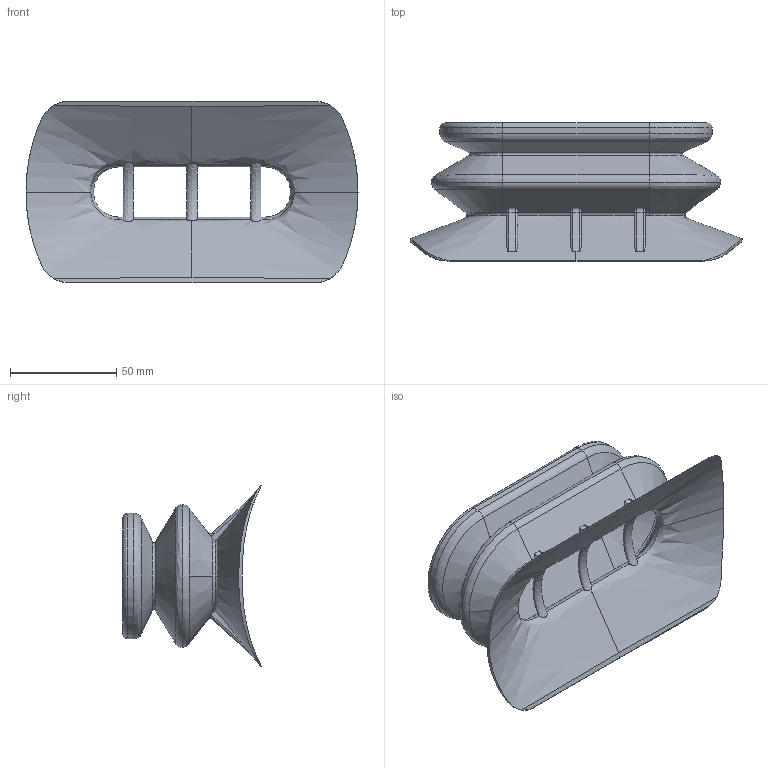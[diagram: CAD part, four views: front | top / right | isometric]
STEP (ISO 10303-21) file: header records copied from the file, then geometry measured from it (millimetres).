
FILE_DESCRIPTION (( 'STEP AP203' ), '1' );
FILE_NAME ('4PA160_90_69--A.STEP', '2018-01-10T13:18:19', ( '' ), ( '' ), 'SwSTEP 2.0', 'SolidWorks 2016', '' );
FILE_SCHEMA (( 'CONFIG_CONTROL_DESIGN' ));
Length unit declared in the file: millimetre
Products named in the file (1): 4PA160_90_69--A
Bounding box: 156 x 65 x 85.5 mm (x, y, z)
Volume: 99208.1 mm3; surface area: 70026.7 mm2
Topology: 1 solids, 1 shells, 187 faces, 507 edges, 316 vertices
Faces by surface type: cylinder 65, bspline 60, plane 46, cone 16
Entity records: 12591 total; most frequent: CARTESIAN_POINT 8424, ORIENTED_EDGE 1014, DIRECTION 662, EDGE_CURVE 507, VERTEX_POINT 316, AXIS2_PLACEMENT_3D 250, EDGE_LOOP 189, ADVANCED_FACE 187
